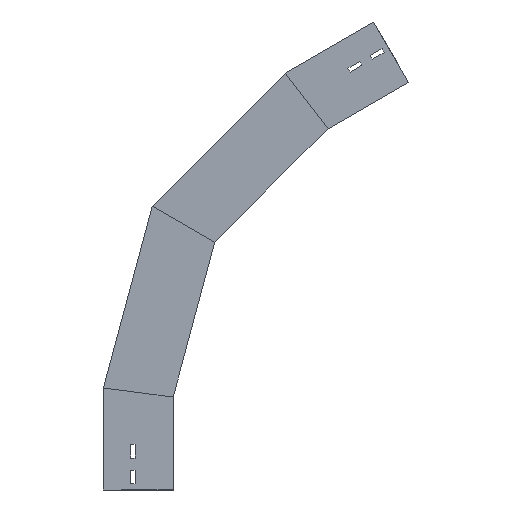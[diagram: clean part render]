
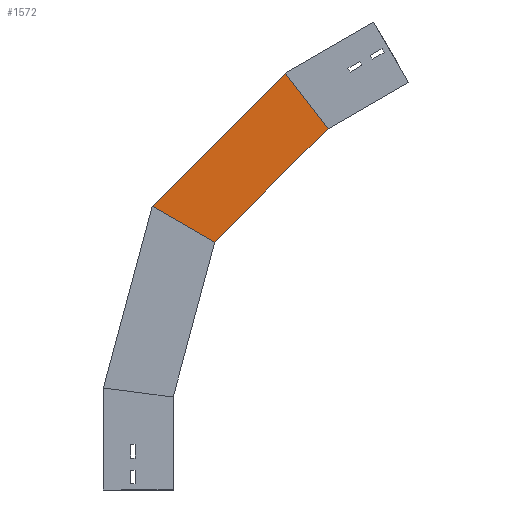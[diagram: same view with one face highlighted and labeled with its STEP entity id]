
A CAD part, left-side view. The second image highlights one B-rep face of the part: STEP entity #1572.
In plain terms, the highlighted planar face has unit normal (-1, 0, 0) as drawn and (1, 0, 0) by its records, which use the part's own axes.
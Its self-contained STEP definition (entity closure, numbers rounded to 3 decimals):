
#64 = CARTESIAN_POINT ( 'NONE',  ( 0., 4.243, 134.167 ) ) ;
#92 = VERTEX_POINT ( 'NONE', #1240 ) ;
#139 = CARTESIAN_POINT ( 'NONE',  ( 0., -128.762, 364.536 ) ) ;
#165 = CARTESIAN_POINT ( 'NONE',  ( 0., -67.034, 400.175 ) ) ;
#182 = ORIENTED_EDGE ( 'NONE', *, *, #689, .T. ) ;
#196 = DIRECTION ( 'NONE',  ( 0., -0.259, 0.966 ) ) ;
#228 = LINE ( 'NONE', #370, #1637 ) ;
#287 = DIRECTION ( 'NONE',  ( 0., -0.866, -0.5 ) ) ;
#312 = ORIENTED_EDGE ( 'NONE', *, *, #1138, .F. ) ;
#341 = ORIENTED_EDGE ( 'NONE', *, *, #973, .F. ) ;
#370 = CARTESIAN_POINT ( 'NONE',  ( 0., 112.909, 163.284 ) ) ;
#454 = DIRECTION ( 'NONE',  ( 0., -0.991, -0.131 ) ) ;
#499 = ORIENTED_EDGE ( 'NONE', *, *, #1619, .T. ) ;
#502 = CARTESIAN_POINT ( 'NONE',  ( 0., 0., 150. ) ) ;
#519 = CARTESIAN_POINT ( 'NONE',  ( 0., 112.5, 164.811 ) ) ;
#529 = VERTEX_POINT ( 'NONE', #519 ) ;
#575 = VECTOR ( 'NONE', #287, 1000. ) ;
#605 = AXIS2_PLACEMENT_3D ( 'NONE', #1590, #1182, #1328 ) ;
#633 = LINE ( 'NONE', #795, #856 ) ;
#689 = EDGE_CURVE ( 'NONE', #529, #92, #228, .T. ) ;
#699 = FACE_OUTER_BOUND ( 'NONE', #700, .T. ) ;
#700 = EDGE_LOOP ( 'NONE', ( #182, #499, #341, #312 ) ) ;
#795 = CARTESIAN_POINT ( 'NONE',  ( 0., -19.411, 147.444 ) ) ;
#856 = VECTOR ( 'NONE', #454, 1000. ) ;
#862 = LINE ( 'NONE', #64, #1194 ) ;
#973 = EDGE_CURVE ( 'NONE', #1137, #1685, #862, .T. ) ;
#984 = DIRECTION ( 'NONE',  ( 0., -0.259, 0.966 ) ) ;
#1137 = VERTEX_POINT ( 'NONE', #502 ) ;
#1138 = EDGE_CURVE ( 'NONE', #529, #1137, #633, .T. ) ;
#1174 = PLANE ( 'NONE',  #605 ) ;
#1182 = DIRECTION ( 'NONE',  ( 1., 0., 0. ) ) ;
#1194 = VECTOR ( 'NONE', #984, 1000. ) ;
#1240 = CARTESIAN_POINT ( 'NONE',  ( 0., 33.831, 458.409 ) ) ;
#1328 = DIRECTION ( 'NONE',  ( 0., 0., -1. ) ) ;
#1572 = ADVANCED_FACE ( 'NONE', ( #699 ), #1174, .T. ) ;
#1590 = CARTESIAN_POINT ( 'NONE',  ( 0., 4.243, 134.167 ) ) ;
#1600 = LINE ( 'NONE', #139, #575 ) ;
#1619 = EDGE_CURVE ( 'NONE', #92, #1685, #1600, .T. ) ;
#1637 = VECTOR ( 'NONE', #196, 1000. ) ;
#1685 = VERTEX_POINT ( 'NONE', #165 ) ;
